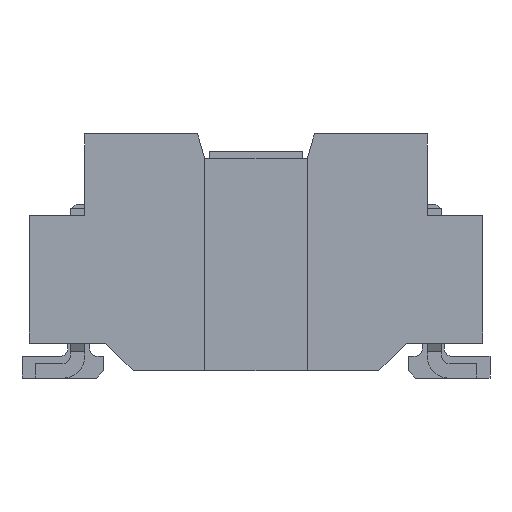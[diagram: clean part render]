
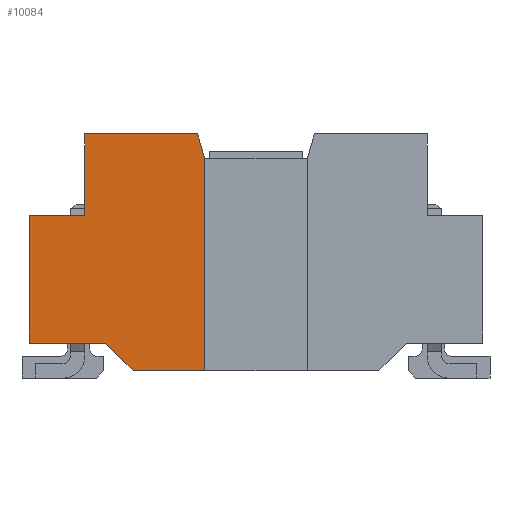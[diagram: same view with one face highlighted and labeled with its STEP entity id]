
A CAD part, front view. The second image highlights one B-rep face of the part: STEP entity #10084.
In plain terms, the highlighted planar face has unit normal (0, -1, 0).
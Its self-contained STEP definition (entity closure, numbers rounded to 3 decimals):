
#325=DIRECTION('',(0.,0.,1.));
#326=VECTOR('',#325,0.56);
#327=CARTESIAN_POINT('',(-1.17,-3.405,0.275));
#328=LINE('',#327,#326);
#361=DIRECTION('',(-1.,0.,0.));
#362=VECTOR('',#361,0.52);
#363=CARTESIAN_POINT('',(-1.03,-3.405,-0.595));
#364=LINE('',#363,#362);
#393=DIRECTION('',(0.,0.,1.));
#394=VECTOR('',#393,0.87);
#395=CARTESIAN_POINT('',(-1.55,-3.405,-0.595));
#396=LINE('',#395,#394);
#397=DIRECTION('',(0.,0.,1.));
#398=VECTOR('',#397,1.45);
#399=CARTESIAN_POINT('',(-0.35,-3.405,-0.785));
#400=LINE('',#399,#398);
#401=DIRECTION('',(1.,0.,0.));
#402=VECTOR('',#401,0.49);
#403=CARTESIAN_POINT('',(-0.84,-3.405,-0.785));
#404=LINE('',#403,#402);
#405=DIRECTION('',(0.707,0.,-0.707));
#406=VECTOR('',#405,0.269);
#407=CARTESIAN_POINT('',(-1.03,-3.405,-0.595));
#408=LINE('',#407,#406);
#409=DIRECTION('',(-1.,0.,0.));
#410=VECTOR('',#409,0.38);
#411=CARTESIAN_POINT('',(-1.17,-3.405,0.275));
#412=LINE('',#411,#410);
#413=DIRECTION('',(-1.,0.,0.));
#414=VECTOR('',#413,0.77);
#415=CARTESIAN_POINT('',(-0.4,-3.405,0.835));
#416=LINE('',#415,#414);
#417=DIRECTION('',(-0.282,0.,0.959));
#418=VECTOR('',#417,0.177);
#419=CARTESIAN_POINT('',(-0.35,-3.405,0.665));
#420=LINE('',#419,#418);
#9264=CARTESIAN_POINT('',(-0.35,-3.405,0.665));
#9266=VERTEX_POINT('',#9264);
#9267=CARTESIAN_POINT('',(-0.35,-3.405,-0.785));
#9268=VERTEX_POINT('',#9267);
#9383=CARTESIAN_POINT('',(-0.84,-3.405,-0.785));
#9384=VERTEX_POINT('',#9383);
#9385=CARTESIAN_POINT('',(-1.03,-3.405,-0.595));
#9386=VERTEX_POINT('',#9385);
#9403=CARTESIAN_POINT('',(-0.4,-3.405,0.835));
#9405=VERTEX_POINT('',#9403);
#9409=CARTESIAN_POINT('',(-1.17,-3.405,0.275));
#9410=VERTEX_POINT('',#9409);
#9411=CARTESIAN_POINT('',(-1.17,-3.405,0.835));
#9412=VERTEX_POINT('',#9411);
#9425=CARTESIAN_POINT('',(-1.55,-3.405,-0.595));
#9427=VERTEX_POINT('',#9425);
#9433=CARTESIAN_POINT('',(-1.55,-3.405,0.275));
#9435=VERTEX_POINT('',#9433);
#10063=CARTESIAN_POINT('',(0.,-3.405,-0.835));
#10064=DIRECTION('',(0.,1.,0.));
#10065=DIRECTION('',(0.,0.,1.));
#10066=AXIS2_PLACEMENT_3D('',#10063,#10064,#10065);
#10067=PLANE('',#10066);
#10069=ORIENTED_EDGE('',*,*,#10068,.F.);
#10071=ORIENTED_EDGE('',*,*,#10070,.F.);
#10073=ORIENTED_EDGE('',*,*,#10072,.F.);
#10074=ORIENTED_EDGE('',*,*,#10031,.T.);
#10075=ORIENTED_EDGE('',*,*,#10056,.T.);
#10076=ORIENTED_EDGE('',*,*,#9971,.F.);
#10077=ORIENTED_EDGE('',*,*,#9955,.T.);
#10079=ORIENTED_EDGE('',*,*,#10078,.F.);
#10081=ORIENTED_EDGE('',*,*,#10080,.F.);
#10082=EDGE_LOOP('',(#10069,#10071,#10073,#10074,#10075,#10076,#10077,#10079,
#10081));
#10083=FACE_OUTER_BOUND('',#10082,.F.);
#10084=ADVANCED_FACE('',(#10083),#10067,.F.);
#9955=EDGE_CURVE('',#9410,#9412,#328,.T.);
#9971=EDGE_CURVE('',#9410,#9435,#412,.T.);
#10031=EDGE_CURVE('',#9386,#9427,#364,.T.);
#10056=EDGE_CURVE('',#9427,#9435,#396,.T.);
#10068=EDGE_CURVE('',#9268,#9266,#400,.T.);
#10070=EDGE_CURVE('',#9384,#9268,#404,.T.);
#10072=EDGE_CURVE('',#9386,#9384,#408,.T.);
#10078=EDGE_CURVE('',#9405,#9412,#416,.T.);
#10080=EDGE_CURVE('',#9266,#9405,#420,.T.);
